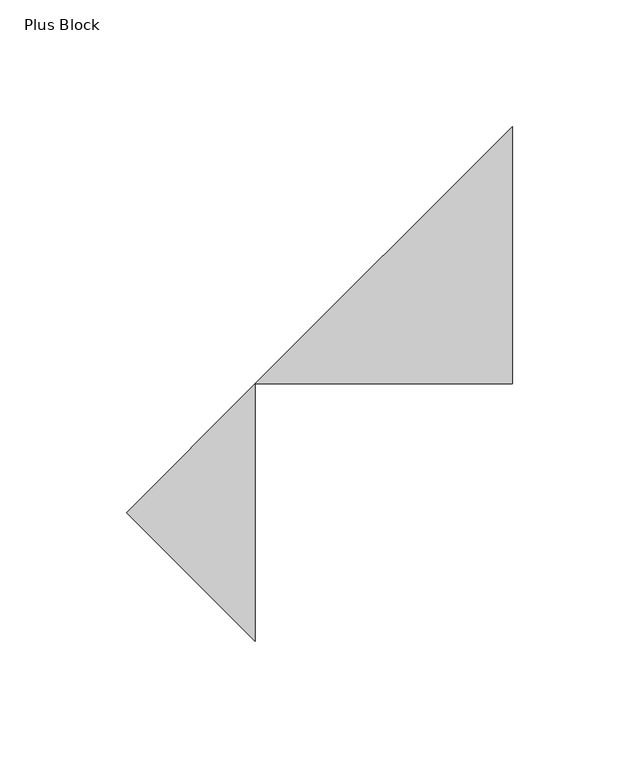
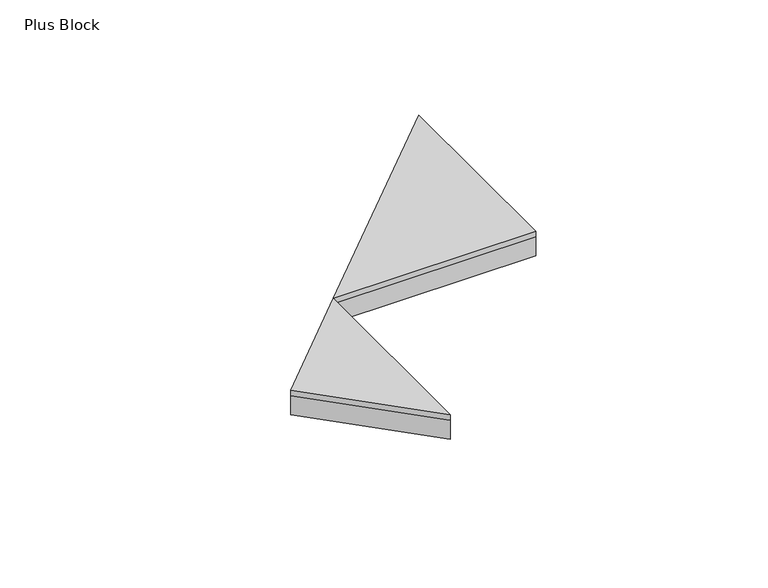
"""IFC4 building model written with IfcOpenShell, lengths in millimetres: proxy geometry, FilzFelt_Plus_Block : Plus Block."""

import ifcopenshell
import ifcopenshell.guid

model = None  # the IFC model being written
_history = None  # IfcOwnerHistory: only IFC2X3 demands one
_inside = {}  # id of a spatial element -> (the spatial element, [elements in it])
_under = {}  # id of a project, library or spatial element -> (it, [spatial elements below it])
_declared = {}  # id of a project -> (the project, [libraries it declares])
_typed = {}  # id of a type object -> (the type object, [elements of that type])
_made_of = {}  # id of a material, layer set ... -> (it, [elements and type objects made of it])


def new_model(schema):
    """Start an empty IFC model of exactly this schema.

    Asked for "IFC4X3", IfcOpenShell would pick the latest addendum, in which some entities
    have other attributes; the version numbers below select the first issue.
    IFC2X3 requires an IfcOwnerHistory on every rooted entity: one is made here for all.
    """
    global model, _history
    if schema == "IFC4X3":
        model = ifcopenshell.file(schema_version=(4, 3, 0, 0))
    else:
        model = ifcopenshell.file(schema=schema)
    _inside.clear()
    _under.clear()
    _declared.clear()
    _typed.clear()
    _made_of.clear()
    _history = None
    if model.schema == "IFC2X3":
        org = make("IfcOrganization", Name="unknown")
        user = make(
            "IfcPersonAndOrganization",
            ThePerson=make("IfcPerson", FamilyName="unknown"),
            TheOrganization=org,
        )
        app = make(
            "IfcApplication",
            ApplicationDeveloper=org,
            Version="unknown",
            ApplicationFullName="unknown",
            ApplicationIdentifier="unknown",
        )
        _history = make(
            "IfcOwnerHistory",
            OwningUser=user,
            OwningApplication=app,
            ChangeAction="ADDED",
            CreationDate=0,
        )
    return model


def make(cls, **values):
    """One entity of the class cls with the attributes given. An attribute that is None is left unset."""
    return model.create_entity(
        cls, **{name: value for name, value in values.items() if value is not None}
    )


def rooted(cls, **values):
    """An entity with a GlobalId (a new one), such as an element, a storey or a relation."""
    return make(cls, GlobalId=ifcopenshell.guid.new(), OwnerHistory=_history, **values)


def si_unit(unit_type, name, prefix=None):
    """IfcSIUnit, for example si_unit("LENGTHUNIT", "METRE", prefix="MILLI")."""
    return make("IfcSIUnit", UnitType=unit_type, Prefix=prefix, Name=name)


def assignment(units):
    """IfcUnitAssignment: the units of a project."""
    return None if units is None else make("IfcUnitAssignment", Units=units)


def point(xyz):
    """IfcCartesianPoint."""
    return None if xyz is None else make("IfcCartesianPoint", Coordinates=xyz)


def direction(xyz):
    """IfcDirection."""
    return None if xyz is None else make("IfcDirection", DirectionRatios=xyz)


def frame(location, z_axis=None, x_axis=None):
    """IfcAxis2Placement3D, a coordinate frame: its origin and axes. An axis left out is left unset."""
    return make(
        "IfcAxis2Placement3D",
        Location=point(location),
        Axis=direction(z_axis),
        RefDirection=direction(x_axis),
    )


def origin():
    """The frame at (0, 0, 0) with its axes left unset."""
    return frame((0.0, 0.0, 0.0))


def place(relative_to, where):
    """IfcLocalPlacement: puts the frame where relative to a parent placement (None: the world)."""
    return make(
        "IfcLocalPlacement", PlacementRelTo=relative_to, RelativePlacement=where
    )


def context(
    kind, dimensions, precision=None, world=None, true_north=None, identifier=None
):
    """IfcGeometricRepresentationContext, for example the 3D "Model" context."""
    return make(
        "IfcGeometricRepresentationContext",
        ContextIdentifier=identifier,
        ContextType=kind,
        CoordinateSpaceDimension=dimensions,
        Precision=precision,
        WorldCoordinateSystem=world,
        TrueNorth=true_north,
    )


def project(units=None, contexts=None):
    """IfcProject with its units and contexts."""
    return rooted(
        "IfcProject",
        Name="project",
        RepresentationContexts=contexts,
        UnitsInContext=assignment(units),
    )


def spatial(cls, under=None, at=None, **own):
    """A site, building, storey or space (cls), placed at a placement, below another one or the project."""
    s = rooted(cls, ObjectPlacement=at, **own)
    if under is not None:
        _under.setdefault(under.id(), (under, []))[1].append(s)
    return s


def faces_of(points, faces, orient=None, outer=None):
    """IfcFace entities. A face is a list of loops; a loop is a list of indices into points, from 0.

    orient and outer hold one flag for each loop. By default every Orientation is true, the
    first loop of a face is its IfcFaceOuterBound and the others are IfcFaceBound.
    """
    made = []
    for i, loops in enumerate(faces):
        bounds = []
        for j, loop in enumerate(loops):
            is_outer = j == 0 if outer is None else outer[i][j]
            bounds.append(
                make(
                    "IfcFaceOuterBound" if is_outer else "IfcFaceBound",
                    Bound=make("IfcPolyLoop", Polygon=[points[k] for k in loop]),
                    Orientation=True if orient is None else orient[i][j],
                )
            )
        made.append(make("IfcFace", Bounds=bounds))
    return made


def faceted_brep(points, faces, orient=None, outer=None, voids=None):
    """IfcFacetedBrep: a solid bounded by flat faces; with voids (closed shells), ...WithVoids."""
    shared = [point(p) for p in points]
    hull = make("IfcClosedShell", CfsFaces=faces_of(shared, faces, orient, outer))
    if voids is None:
        return make("IfcFacetedBrep", Outer=hull)
    return make(
        "IfcFacetedBrepWithVoids",
        Outer=hull,
        Voids=[
            make(cls, CfsFaces=faces_of(shared, fs, o, b)) for cls, fs, o, b in voids
        ],
    )


def shape(context_of_items, identifier, shape_type, items):
    """IfcShapeRepresentation: the items that make up one representation, for example the "Body"."""
    return make(
        "IfcShapeRepresentation",
        ContextOfItems=context_of_items,
        RepresentationIdentifier=identifier,
        RepresentationType=shape_type,
        Items=items,
    )


def source(mapping_origin, context_of_items, identifier, shape_type, items):
    """IfcRepresentationMap: a shape defined once, which mapped items show again and again."""
    return make(
        "IfcRepresentationMap",
        MappingOrigin=mapping_origin,
        MappedRepresentation=shape(context_of_items, identifier, shape_type, items),
    )


def transform(
    local_origin,
    x_axis=None,
    y_axis=None,
    z_axis=None,
    scale=None,
    scale2=None,
    scale3=None,
    uniform=True,
):
    """IfcCartesianTransformationOperator3D, or its non-uniform kind. x_axis, y_axis, z_axis: its Axis1, 2, 3."""
    if uniform:
        return make(
            "IfcCartesianTransformationOperator3D",
            Axis1=direction(x_axis),
            Axis2=direction(y_axis),
            LocalOrigin=point(local_origin),
            Scale=scale,
            Axis3=direction(z_axis),
        )
    return make(
        "IfcCartesianTransformationOperator3DnonUniform",
        Axis1=direction(x_axis),
        Axis2=direction(y_axis),
        LocalOrigin=point(local_origin),
        Scale=scale,
        Axis3=direction(z_axis),
        Scale2=scale2,
        Scale3=scale3,
    )


def mapped(mapping_source, mapping_target):
    """IfcMappedItem: shows the shape of a source again, moved by a transform."""
    return make(
        "IfcMappedItem", MappingSource=mapping_source, MappingTarget=mapping_target
    )


def made_of(thing, what):
    """Note that an element or type object is made of a material, layer set ...; save() writes the relation."""
    if what is not None:
        _made_of.setdefault(what.id(), (what, []))[1].append(thing)
    return thing


def element(
    cls,
    number,
    at=None,
    inside=None,
    cuts=None,
    type_object=None,
    material=None,
    context=None,
    identifier="Body",
    shape_type=None,
    held_by="IfcProductDefinitionShape",
    body=None,
    shapes=None,
    **own,
):
    """One element of the class cls, such as IfcWall. Its Tag is "e" and its number.

    at: its placement. inside: the storey or other place that contains it. cuts: it is an
    opening in that element (IfcRelVoidsElement). A single representation is given by context,
    identifier, shape_type and body (its items); several are given by shapes. held_by: the class
    of the entity that holds the representations. save() writes the other relations.
    """
    e = rooted(cls, Tag="e%d" % number, ObjectPlacement=at, **own)
    if body is not None:
        shapes = [shape(context, identifier, shape_type, body)]
    if shapes is not None:
        e.Representation = make(held_by, Representations=shapes)
    if inside is not None:
        _inside.setdefault(inside.id(), (inside, []))[1].append(e)
    if cuts is not None:
        rooted(
            "IfcRelVoidsElement", RelatingBuildingElement=cuts, RelatedOpeningElement=e
        )
    if type_object is not None:
        _typed.setdefault(type_object.id(), (type_object, []))[1].append(e)
    return made_of(e, material)


def aggregate(whole, parts):
    """IfcRelAggregates: a whole, such as a stair, and the parts it consists of."""
    return rooted("IfcRelAggregates", RelatingObject=whole, RelatedObjects=parts)


def save(model, path):
    """Write the relations noted so far, then the file.

    IfcRelAggregates (storeys below a building ...), IfcRelContainedInSpatialStructure (elements
    in a storey), IfcRelDefinesByType, IfcRelAssociatesMaterial and IfcRelDeclares: one each for
    every whole, place, type object, material and project.
    """
    for whole, parts in _under.values():
        aggregate(whole, parts)
    for where, things in _inside.values():
        rooted(
            "IfcRelContainedInSpatialStructure",
            RelatedElements=things,
            RelatingStructure=where,
        )
    for kind, things in _typed.values():
        rooted("IfcRelDefinesByType", RelatedObjects=things, RelatingType=kind)
    for what, things in _made_of.values():
        rooted("IfcRelAssociatesMaterial", RelatedObjects=things, RelatingMaterial=what)
    for by, libraries in _declared.values():
        rooted("IfcRelDeclares", RelatingContext=by, RelatedDefinitions=libraries)
    model.write(path)


def plus_block_16ed84a6(model_context):
    return source(origin(), model_context, "Body", "Brep", [
        faceted_brep([(152.5, 50.8333333, 10.0210937), (152.5, -50.8333333, 10.0210937), (50.8333333, -50.8333333, 10.0210937), (50.8333333, -152.5, 10.0210937), (0.0, -101.6666667, 10.0210937), (50.8333333, -152.5, 12.9976563), (50.8333333, -50.8333333, 12.9976563), (0.0, -101.6666667, 12.9976563), (152.5, -50.8333333, 12.9976563), (152.5, 50.8333333, 12.9976563)], [[[0, 1, 2]], [[2, 3, 4]], [[5, 6, 7]], [[6, 8, 9]], [[1, 0, 9, 8]], [[2, 1, 8, 6]], [[3, 2, 6, 5]], [[3, 5, 7, 4]], [[0, 2, 4, 7, 6, 9]]]),
        faceted_brep([(152.5, 50.8333333, 0.0), (152.5, -50.8333333, 0.0), (50.8333333, -50.8333333, 0.0), (50.8333333, -152.5, 0.0), (0.0, -101.6666667, 0.0), (50.8333333, -152.5, 10.0210937), (50.8333333, -50.8333333, 10.0210937), (0.0, -101.6666667, 10.0210937), (152.5, -50.8333333, 10.0210937), (152.5, 50.8333333, 10.0210937)], [[[0, 1, 2]], [[2, 3, 4]], [[5, 6, 7]], [[6, 8, 9]], [[1, 0, 9, 8]], [[2, 1, 8, 6]], [[3, 2, 6, 5]], [[3, 5, 7, 4]], [[0, 2, 4, 7, 6, 9]]]),
    ])


if __name__ == "__main__":
    model = new_model("IFC4")
    model_context = context("Model", 3, world=origin())
    ifc_project = project(units=[si_unit("LENGTHUNIT", "METRE", prefix="MILLI")], contexts=[model_context])
    site = spatial("IfcSite", under=ifc_project)
    building = spatial("IfcBuilding", under=site)
    placement = place(None, origin())
    plus_block_shape = plus_block_16ed84a6(model_context)
    element("IfcBuildingElementProxy", 1, Name="FilzFelt_Plus_Block : Plus Block", ObjectType="FilzFelt_Plus_Block : Plus Block", at=placement, inside=building, context=model_context, shape_type="MappedRepresentation", body=[
        mapped(plus_block_shape, transform((0.0, 0.0, 0.0), x_axis=(1.0, 0.0, 0.0), y_axis=(0.0, 1.0, 0.0), z_axis=(0.0, 0.0, 1.0))),
    ])
    save(model, "model.ifc")
